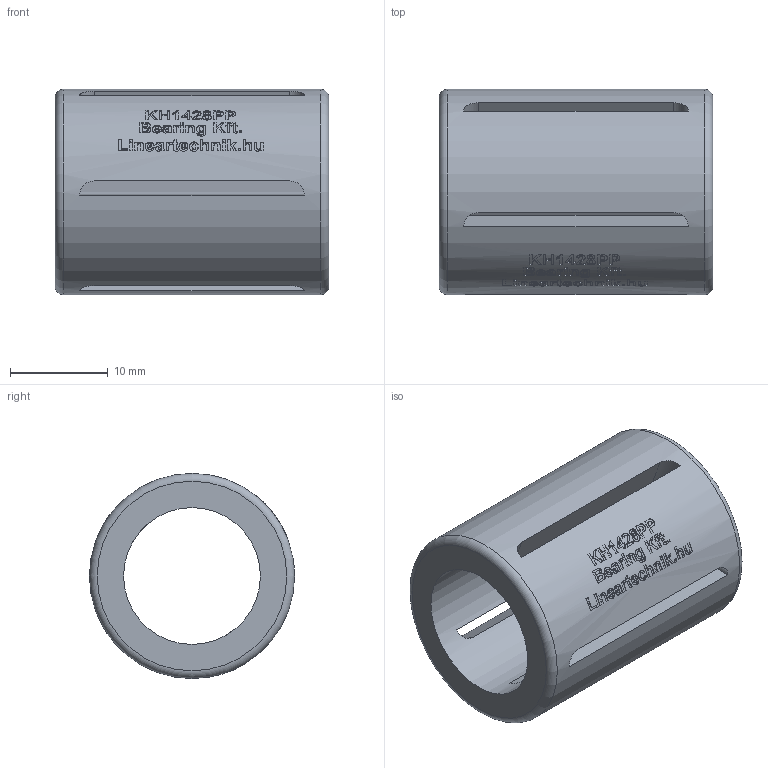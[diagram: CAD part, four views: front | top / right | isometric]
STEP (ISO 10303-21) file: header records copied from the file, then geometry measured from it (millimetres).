
FILE_DESCRIPTION(/* description */ (''),/* implementation_level */ '2;1');
FILE_NAME(/* name */ 'KH1428PP',/* time_stamp */ '2019-07-11T11:31:18+02:00',/* author */ ('VĂ©gh MĂˇtĂ©'),/* organization */ ('Bearing Kft'),/* preprocessor_version */ 'ST-DEVELOPER v16.7',/* originating_system */ 'DEX',/* authorisation */ $);
FILE_SCHEMA (('AUTOMOTIVE_DESIGN {1 0 10303 214 3 1 1}'));
Length unit declared in the file: millimetre
Products named in the file (1): KH1428PP
Bounding box: 28 x 21 x 21 mm (x, y, z)
Volume: 4778.5 mm3; surface area: 3939.6 mm2
Topology: 1 solids, 1 shells, 350 faces, 889 edges, 591 vertices
Faces by surface type: plane 187, bspline 98, cylinder 63, torus 2
Full cylindrical faces by diameter (mm): 14 x1, 21 x1
Entity records: 15267 total; most frequent: CARTESIAN_POINT 7321, ORIENTED_EDGE 1764, DIRECTION 1339, EDGE_CURVE 882, VERTEX_POINT 591, LINE 493, VECTOR 493, AXIS2_PLACEMENT_3D 423
